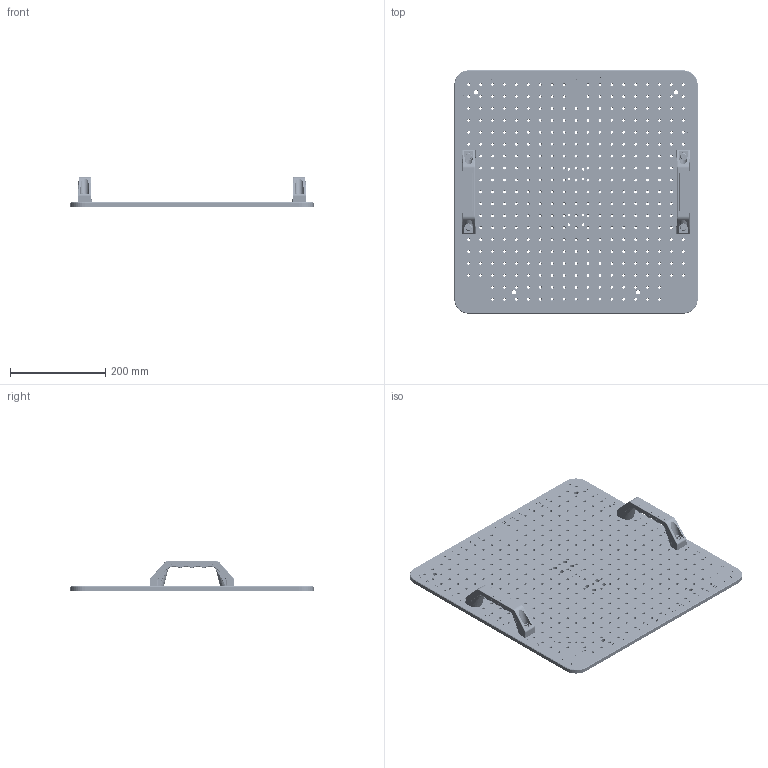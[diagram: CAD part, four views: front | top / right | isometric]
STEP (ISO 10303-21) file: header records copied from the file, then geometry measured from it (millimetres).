
FILE_DESCRIPTION(/* description */ (''),/* implementation_level */ '2;1');
FILE_NAME(/* name */ 'EQ500 M6 MODULAR.stp',/* time_stamp */ '2021-02-17T09:25:37+00:00',/* author */ (''),/* organization */ (''),/* preprocessor_version */ 'ST-DEVELOPER v16.7',/* originating_system */ 'SIEMENS PLM Software NX 1942',/* authorisation */ '');
FILE_SCHEMA (('AUTOMOTIVE_DESIGN { 1 0 10303 214 3 1 1 1 }'));
Products named in the file (1): jh1457B8CC4Bm5hn
Bounding box: 510 x 510 x 63.2 mm (x, y, z)
Volume: 2676374.7 mm3; surface area: 645891.6 mm2
Topology: 18 solids, 18 shells, 3263 faces, 8254 edges, 5378 vertices
Faces by surface type: plane 1519, cylinder 717, bspline 580, cone 423, torus 24
Full cylindrical faces by diameter (mm): 3.4 x6, 4 x6, 4.5 x6, 5.2 x347, 5.5 x8, 6.9 x4, 7.89 x6, 8 x4, 9 x12, 13 x4, 21.5 x3, 22 x3, 42 x3, 43 x3
Entity records: 120894 total; most frequent: CARTESIAN_POINT 44265, ORIENTED_EDGE 14702, DIRECTION 12954, EDGE_CURVE 7351, VERTEX_POINT 5337, EDGE_LOOP 5216, AXIS2_PLACEMENT_3D 4489, LINE 3976
